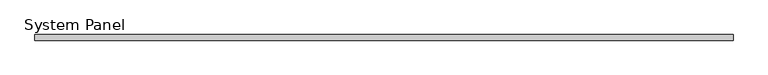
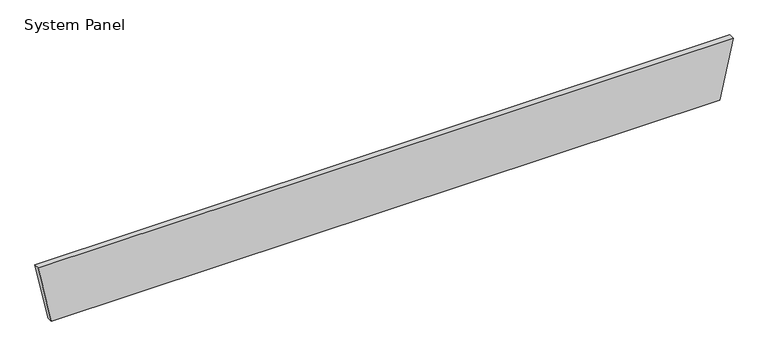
"""IFC4 building model written with IfcOpenShell, lengths in millimetres: plate geometry, System Panel : MetecnoPanel_100mm_Plain_Surfmist."""

from ifc_helpers import new_model, si_unit, frame, origin, place, context, project, spatial, polyline, outline, extrude, source, transform, mapped, element, save


def system_panel_0f2582f7(model_context):
    return source(origin(), model_context, "Body", "SweptSolid", [
        extrude(outline(polyline([(0.0, -6000.0), (0.0, 6000.0), (1100.0, 6239.1323567), (1100.0, -6239.1323567), (0.0, -6000.0)])), frame((0.0, -100.0, 0.0), z_axis=(0.0, 1.0, 0.0), x_axis=(0.0, 0.0, 1.0)), (0.0, 0.0, 1.0), 100.0),
    ])


if __name__ == "__main__":
    model = new_model("IFC4")
    model_context = context("Model", 3, world=origin())
    ifc_project = project(units=[si_unit("LENGTHUNIT", "METRE", prefix="MILLI")], contexts=[model_context])
    site = spatial("IfcSite", under=ifc_project)
    building = spatial("IfcBuilding", under=site)
    placement = place(None, origin())
    system_panel_shape = system_panel_0f2582f7(model_context)
    element("IfcPlate", 1, ObjectType="System Panel : MetecnoPanel_100mm_Plain_Surfmist", at=placement, inside=building, context=model_context, shape_type="MappedRepresentation", body=[
        mapped(system_panel_shape, transform((0.0, 0.0, 0.0), x_axis=(1.0, 0.0, 0.0), y_axis=(0.0, 1.0, 0.0), z_axis=(0.0, 0.0, 1.0))),
    ])
    save(model, "model.ifc")
